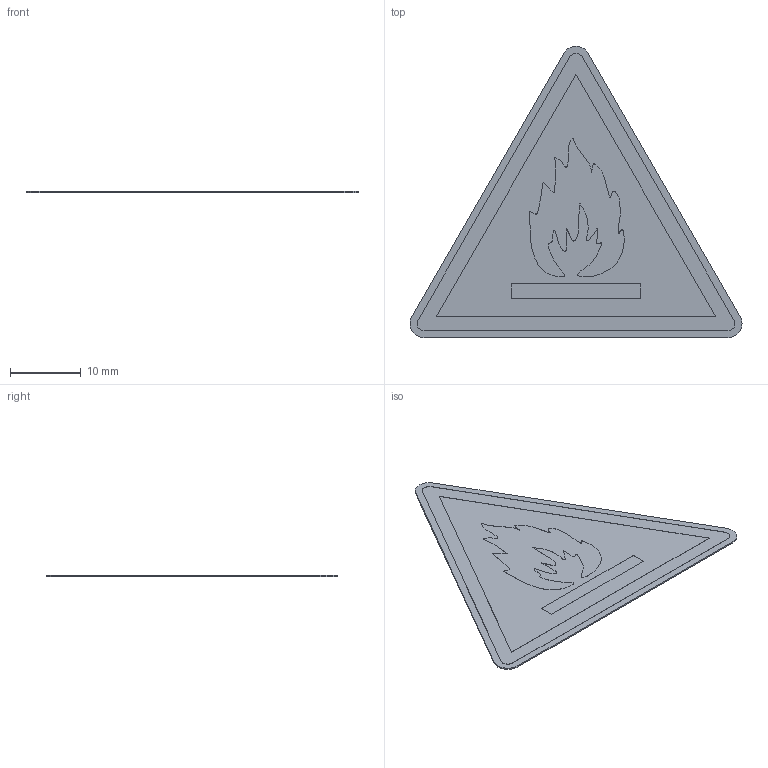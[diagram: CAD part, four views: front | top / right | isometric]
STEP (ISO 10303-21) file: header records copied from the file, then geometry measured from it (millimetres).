
FILE_DESCRIPTION (( 'STEP AP214' ), '1' );
FILE_NAME ('W021_Warnung vor feuergefährlichen Stoffen.STEP', '2022-02-22T08:19:19', ( '' ), ( '' ), 'SwSTEP 2.0', 'SolidWorks 2021', '' );
FILE_SCHEMA (( 'AUTOMOTIVE_DESIGN' ));
Length unit declared in the file: millimetre
Products named in the file (1): W021_Warnung vor feuergefährlichen Stoffen
Bounding box: 47.07 x 41.3 x 0.22 mm (x, y, z)
Volume: 221.7 mm3; surface area: 2235.9 mm2
Topology: 1 solids, 1 shells, 30 faces, 72 edges, 48 vertices
Faces by surface type: plane 19, cylinder 8, bspline 3
Entity records: 1840 total; most frequent: CARTESIAN_POINT 886, ORIENTED_EDGE 144, DIRECTION 138, EDGE_CURVE 72, LINE 50, VECTOR 50, VERTEX_POINT 48, AXIS2_PLACEMENT_3D 44
